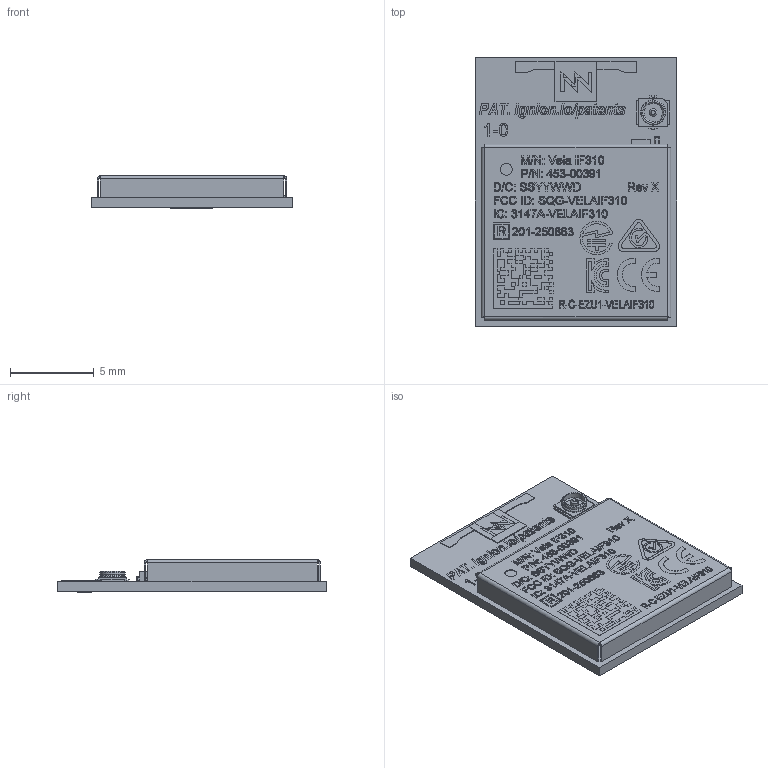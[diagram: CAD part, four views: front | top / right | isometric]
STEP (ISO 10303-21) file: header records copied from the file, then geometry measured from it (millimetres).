
FILE_DESCRIPTION (( 'STEP AP214' ), '1' );
FILE_NAME ('453-00391.STEP', '2026-05-25T08:52:39', ( '' ), ( '' ), 'SwSTEP 2.0', 'SolidWorks 2025', '' );
FILE_SCHEMA (( 'AUTOMOTIVE_DESIGN' ));
Length unit declared in the file: millimetre
Products named in the file (4): 110-00031_453-00391; 750-00054_940-00388, MHF4; 453-00391; 940-00388_laser
Assembly tree (3 placements, depth 3):
  453-00391
    940-00388_laser
      750-00054_940-00388, MHF4
      110-00031_453-00391
Bounding box: 12 x 16 x 1.95 mm (x, y, z)
Volume: 16 mm3; surface area: 952.1 mm2
Topology: 1 solids, 239 shells, 4330 faces, 10526 edges, 6782 vertices
Faces by surface type: plane 2971, bspline 787, cylinder 434, sphere 128, cone 10
Entity records: 208986 total; most frequent: CARTESIAN_POINT 64556, ORIENTED_EDGE 20745, DIRECTION 16542, EDGE_CURVE 10398, LINE 7756, VECTOR 7756, VERTEX_POINT 6782, EDGE_LOOP 4572
